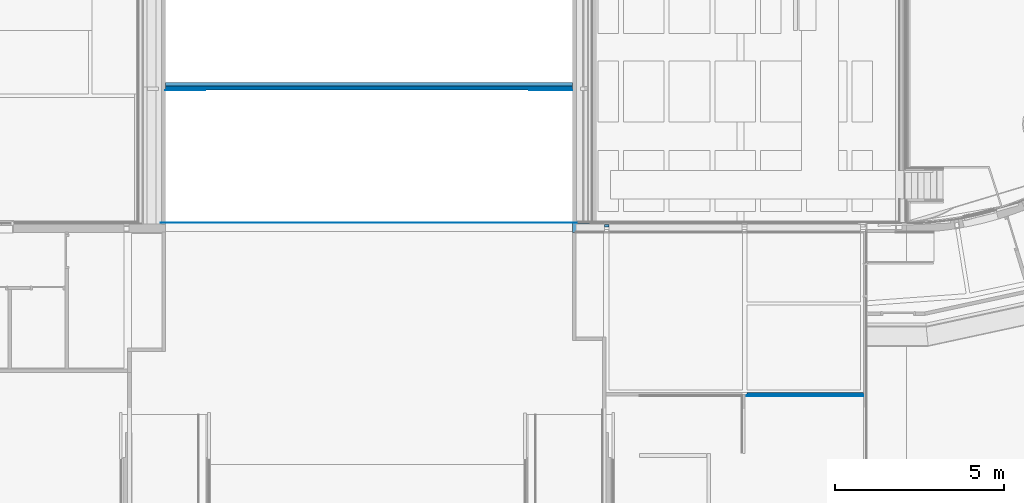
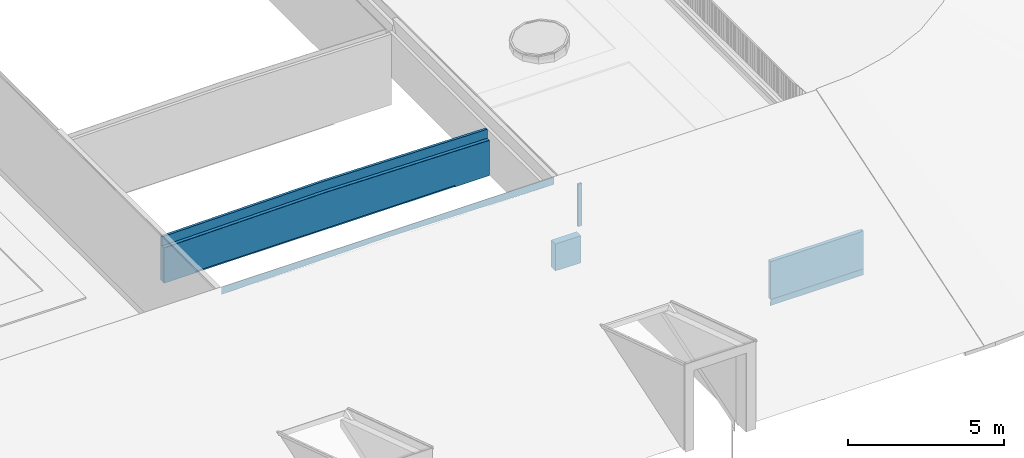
# One storey, part 25 of 66: 8 walls, 5 openings.
"""IFC2X3 building model written with IfcOpenShell, lengths in millimetres."""

from ifc_helpers import new_model, entity, si_unit, converted_unit, derived_unit, direction, frame, frame_2d, origin, place, context, subcontext, project, spatial, polyline, rectangle, outline, extrude, clip, halfspace, bounded_halfspace, material, layer, layer_set, layer_usage, type_object, element, save


model = new_model("IFC2X3")

# Units and contexts
model_context = context("Model", 3, precision=0.01, world=origin(), true_north=direction((6.12303176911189e-17, 1.0)))
body_context = subcontext(model_context, "Body", "Model", "MODEL_VIEW")
ifc_project = project(units=[si_unit("LENGTHUNIT", "METRE", prefix="MILLI"), si_unit("AREAUNIT", "SQUARE_METRE"), si_unit("VOLUMEUNIT", "CUBIC_METRE"), converted_unit("PLANEANGLEUNIT", "DEGREE", entity("IfcRatioMeasure", 0.0174532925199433), si_unit("PLANEANGLEUNIT", "RADIAN"), dimensions=[0, 0, 0, 0, 0, 0, 0]), si_unit("MASSUNIT", "GRAM", prefix="KILO"), derived_unit("MASSDENSITYUNIT", [(si_unit("MASSUNIT", "GRAM", prefix="KILO"), 1), (si_unit("LENGTHUNIT", "METRE"), -3)]), derived_unit("MOMENTOFINERTIAUNIT", [(si_unit("LENGTHUNIT", "METRE"), 4)]), si_unit("TIMEUNIT", "SECOND"), si_unit("FREQUENCYUNIT", "HERTZ"), si_unit("THERMODYNAMICTEMPERATUREUNIT", "DEGREE_CELSIUS"), derived_unit("THERMALTRANSMITTANCEUNIT", [(si_unit("MASSUNIT", "GRAM", prefix="KILO"), 1), (si_unit("THERMODYNAMICTEMPERATUREUNIT", "KELVIN"), -1), (si_unit("TIMEUNIT", "SECOND"), -3)]), derived_unit("VOLUMETRICFLOWRATEUNIT", [(si_unit("LENGTHUNIT", "METRE"), 3), (si_unit("TIMEUNIT", "SECOND"), -1)]), si_unit("ELECTRICCURRENTUNIT", "AMPERE"), si_unit("ELECTRICVOLTAGEUNIT", "VOLT"), si_unit("POWERUNIT", "WATT"), si_unit("FORCEUNIT", "NEWTON", prefix="KILO"), si_unit("ILLUMINANCEUNIT", "LUX"), si_unit("LUMINOUSFLUXUNIT", "LUMEN"), si_unit("LUMINOUSINTENSITYUNIT", "CANDELA"), derived_unit("USERDEFINED", [(si_unit("MASSUNIT", "GRAM", prefix="KILO"), -1), (si_unit("LENGTHUNIT", "METRE"), -2), (si_unit("TIMEUNIT", "SECOND"), 3), (si_unit("LUMINOUSFLUXUNIT", "LUMEN"), 1)]), derived_unit("LINEARVELOCITYUNIT", [(si_unit("LENGTHUNIT", "METRE"), 1), (si_unit("TIMEUNIT", "SECOND"), -1)]), si_unit("PRESSUREUNIT", "PASCAL"), derived_unit("USERDEFINED", [(si_unit("LENGTHUNIT", "METRE"), -2), (si_unit("MASSUNIT", "GRAM", prefix="KILO"), 1), (si_unit("TIMEUNIT", "SECOND"), -2)]), derived_unit("LINEARFORCEUNIT", [(si_unit("MASSUNIT", "GRAM", prefix="KILO"), 1), (si_unit("LENGTHUNIT", "METRE"), 1), (si_unit("TIMEUNIT", "SECOND"), -2), (si_unit("LENGTHUNIT", "METRE"), -1)]), derived_unit("PLANARFORCEUNIT", [(si_unit("MASSUNIT", "GRAM", prefix="KILO"), 1), (si_unit("LENGTHUNIT", "METRE"), 1), (si_unit("TIMEUNIT", "SECOND"), -2), (si_unit("LENGTHUNIT", "METRE"), -2)])], contexts=[model_context])

# Site, building, storey
site_placement = place(None, origin())
site = spatial("IfcSite", under=ifc_project, at=site_placement, Name="Default", CompositionType="ELEMENT")
building_placement = place(site_placement, origin())
building = spatial("IfcBuilding", under=site, at=building_placement, Name="-", CompositionType="ELEMENT")
storey_placement = place(building_placement, frame((0.0, 0.0, 3070.0)))
storey = spatial("IfcBuildingStorey", under=building, at=storey_placement, Name="01 eerste verdieping", CompositionType="ELEMENT", Elevation=3070.00000000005)

# Wall, opening
ifc_material_1 = material(Name="NLRS_f7_gipsplaat_gen")
ifc_layer_1 = layer(ifc_material_1, 12.5)
ifc_material_2 = material(Name="NLRS_m1_isolatie")
ifc_layer_2 = layer(ifc_material_2, 75.0)
ifc_layer_3 = layer(ifc_material_1, 12.5)
ifc_layer_set_1 = layer_set([ifc_layer_1, ifc_layer_2, ifc_layer_3], Name="Basic Wall:NLRS_21_WA_Metalstud 100mm")
ifc_layer_usage_1 = layer_usage(ifc_layer_set_1, "AXIS2", "NEGATIVE", 50.0)
wall_type_1 = type_object("IfcWallType", Name="Basic Wall:NLRS_21_WA_Metalstud 100mm", PredefinedType="STANDARD", material=ifc_layer_set_1)
wall_1_placement = place(storey_placement, frame((45943.9585299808, 5370.76111630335, 100.0)))
wall_1 = element("IfcWallStandardCase", 1, at=wall_1_placement, inside=storey, type_object=wall_type_1, material=ifc_layer_usage_1, Name="Basic Wall:NLRS_21_WA_Metalstud 100mm", ObjectType="Basic Wall:NLRS_21_WA_Metalstud 100mm", context=body_context, shape_type="Clipping", body=[
    clip(clip(extrude(rectangle(XDim=3437.66186015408, YDim=99.9999999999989, at=frame_2d((1718.83093007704, -1.06581410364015e-14), x_axis=(-1.0, 0.0))), origin(), (0.0, 0.0, 1.0), 1508.41772504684), bounded_halfspace(frame((3352.47986444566, -50.0, 1475.92575542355), z_axis=(0.0, -0.309016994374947, 0.951056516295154), x_axis=(1.0, 0.0, 0.0)), False, frame((3352.47986444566, -50.0, 1475.92575542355), z_axis=(0.0, -0.309016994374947, 0.951056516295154), x_axis=(1.0, 0.0, 0.0)), polyline([(0.0, 0.0), (0.0, 65.9729998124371), (-18.8180042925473, 65.9729998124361), (-18.8180042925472, 105.146222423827), (-3352.47986444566, 105.146222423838), (-3352.47986444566, 0.0), (0.0, 0.0)]))), bounded_halfspace(frame((3352.47986444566, 12.7440513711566, 1496.31253353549), z_axis=(-1.0, 0.0, 0.0), x_axis=(0.0, 0.951056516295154, 0.309016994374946)), False, frame((3352.47986444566, 12.7440513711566, 1496.31253353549), z_axis=(-1.0, 0.0, 0.0), x_axis=(0.0, 0.951056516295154, 0.309016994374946)), polyline([(0.0, 0.0), (-65.972999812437, 0.0), (-59.6731389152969, -19.3889781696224), (0.0, 0.0)]))),
])
opening_1_placement = place(wall_1_placement, origin())
element("IfcOpeningElement", 2, at=opening_1_placement, cuts=wall_1, Name="Basic Wall:NLRS_21_WA_Metalstud 100mm", ObjectType="Opening", context=body_context, shape_type="SweptSolid", body=[
    extrude(rectangle(XDim=99.9999999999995, YDim=154.000000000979, at=frame_2d((-2.70006239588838e-13, -4.33431068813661e-12), x_axis=(1.0, 0.0))), frame((3410.6618601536, 50.0, 1546.31253353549), z_axis=(0.0, -1.0, 0.0), x_axis=(0.0, 0.0, 1.0)), (0.0, 0.0, 1.0), 100.0),
])

# Walls
ifc_material_3 = material(Name="NLRS_i4_hout_multiplex")
ifc_layer_4 = layer(ifc_material_3, 10.0)
ifc_layer_5 = layer(ifc_material_2, 235.0)
ifc_layer_6 = layer(ifc_material_3, 10.0)
ifc_layer_7 = layer(ifc_material_1, 12.5)
ifc_layer_set_2 = layer_set([ifc_layer_4, ifc_layer_5, ifc_layer_6, ifc_layer_7], Name="Basic Wall:NLRS_21_WA_HSB-wand_268mm")
ifc_layer_usage_2 = layer_usage(ifc_layer_set_2, "AXIS2", "POSITIVE", -133.75)
wall_type_2 = type_object("IfcWallType", Name="Basic Wall:NLRS_21_WA_HSB-wand_268mm", PredefinedType="STANDARD", material=ifc_layer_set_2)
wall_2_placement = place(storey_placement, frame((40795.5668104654, 10280.874095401, 82.0)))
element("IfcWallStandardCase", 3, at=wall_2_placement, inside=storey, type_object=wall_type_2, material=ifc_layer_usage_2, Name="Basic Wall:NLRS_21_WA_HSB-wand_268mm", ObjectType="Basic Wall:NLRS_21_WA_HSB-wand_268mm", context=body_context, shape_type="Clipping", body=[
    clip(clip(extrude(rectangle(XDim=941.037110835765, YDim=267.5, at=frame_2d((470.518555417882, 3.5527136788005e-13), x_axis=(-1.0, 0.0))), origin(), (0.0, 0.0, 1.0), 1060.0), bounded_halfspace(frame((120.499999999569, -133.75, 18.0), z_axis=(1.0, 0.0, 0.0), x_axis=(0.0, 1.0, 0.0)), True, frame((120.499999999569, -133.75, 18.0), z_axis=(1.0, 0.0, 0.0), x_axis=(0.0, 1.0, 0.0)), polyline([(0.0, 0.0), (0.0, -18.0), (267.5, -18.0), (267.500000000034, 0.0), (0.0, 0.0)]))), bounded_halfspace(frame((120.499999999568, 133.750000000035, 18.0)), True, frame((120.499999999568, 133.750000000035, 18.0)), polyline([(0.0, 0.0), (-120.499999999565, 0.0), (-120.499999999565, -26.5028730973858), (-120.499999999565, -267.500000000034), (-23.0, -267.500000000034), (0.0, -267.500000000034), (0.0, 0.0)]))),
])
ifc_layer_8 = layer(ifc_material_3, 10.0)
ifc_material_4 = material(Name="AL_31_Naaldhout (vuren)")
ifc_layer_9 = layer(ifc_material_4, 184.0)
ifc_layer_10 = layer(ifc_material_3, 10.0)
ifc_material_5 = material(Name="NLRS_f7_gipsplaten")
ifc_layer_11 = layer(ifc_material_5, 12.5)
ifc_layer_set_3 = layer_set([ifc_layer_8, ifc_layer_9, ifc_layer_10, ifc_layer_11], Name="Basic Wall:NLRS_21_WA_HSB-wand_217mm ongeisoleerd")
ifc_layer_usage_3 = layer_usage(ifc_layer_set_3, "AXIS2", "POSITIVE", -108.25)
wall_type_3 = type_object("IfcWallType", Name="Basic Wall:NLRS_21_WA_HSB-wand_217mm ongeisoleerd", PredefinedType="STANDARD", material=ifc_layer_set_3)
wall_3_placement = place(storey_placement, frame((28780.6948343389, 14461.5702504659, 1278.0)))
element("IfcWallStandardCase", 4, at=wall_3_placement, inside=storey, type_object=wall_type_3, material=ifc_layer_usage_3, Name="Basic Wall:NLRS_21_WA_HSB-wand_217mm ongeisoleerd", ObjectType="Basic Wall:NLRS_21_WA_HSB-wand_217mm ongeisoleerd", context=body_context, shape_type="Clipping", body=[
    clip(clip(extrude(rectangle(XDim=12012.3719761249, YDim=216.499999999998, at=frame_2d((6006.18598806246, -1.77635683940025e-13), x_axis=(-1.0, 0.0))), origin(), (0.0, 0.0, 1.0), 1458.01711543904), halfspace(frame((0.0, -108.250000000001, 1374.63407559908), z_axis=(-0.0138697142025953, 0.0, 0.999903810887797), x_axis=(0.0, 1.0, 0.0)), False)), halfspace(frame((6011.30045518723, -108.250000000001, 1458.01711543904), z_axis=(0.0138961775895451, 0.0, 0.999903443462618), x_axis=(0.0, 1.0, 0.0)), False)),
])

# Wall, opening
ifc_layer_12 = layer(ifc_material_4, 70.0)
ifc_layer_13 = layer(ifc_material_3, 10.0)
ifc_layer_14 = layer(ifc_material_5, 12.5)
ifc_layer_set_4 = layer_set([ifc_layer_12, ifc_layer_13, ifc_layer_14], Name="Basic Wall:NLRS_21_WA_HSB werk 90mm")
ifc_layer_usage_4 = layer_usage(ifc_layer_set_4, "AXIS2", "POSITIVE", -46.25)
wall_type_4 = type_object("IfcWallType", Name="Basic Wall:NLRS_21_WA_HSB werk 90mm", PredefinedType="STANDARD", material=ifc_layer_set_4)
wall_4_placement = place(storey_placement, frame((28780.6948343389, 14523.5702504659, 2652.63407559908)))
wall_4 = element("IfcWallStandardCase", 5, at=wall_4_placement, inside=storey, type_object=wall_type_4, material=ifc_layer_usage_4, Name="Basic Wall:NLRS_21_WA_HSB werk 90mm", ObjectType="Basic Wall:NLRS_21_WA_HSB werk 90mm", context=body_context, shape_type="Clipping", body=[
    clip(clip(clip(extrude(rectangle(XDim=12012.3719761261, YDim=92.5000000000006, at=frame_2d((6006.18598806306, 0.0), x_axis=(-1.0, 0.0))), origin(), (0.0, 0.0, 1.0), 435.365924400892), halfspace(frame((6011.30105950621, -46.2500000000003, 435.365924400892), z_axis=(0.0138961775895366, 0.0, 0.999903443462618), x_axis=(0.0, 1.0, 0.0)), False)), halfspace(frame((0.0, -46.2500000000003, 351.982876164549), z_axis=(-0.0138697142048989, 0.0, 0.999903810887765), x_axis=(0.0, 1.0, 0.0)), False)), halfspace(frame((12012.3719761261, 0.0, 0.122006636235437), z_axis=(1.01567480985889e-05, 0.0, -1.0), x_axis=(0.0, -1.0, 0.0)), False)),
])
opening_2_placement = place(wall_4_placement, origin())
element("IfcOpeningElement", 6, at=opening_2_placement, cuts=wall_4, Name="Basic Wall:NLRS_21_WA_HSB werk 90mm", ObjectType="Opening", context=body_context, shape_type="SweptSolid", body=[
    extrude(outline(polyline([(-6000.95348719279, -55.6826830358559), (-9.30343327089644, -55.6826830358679), (6010.25692046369, 111.365366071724), (-6000.95348719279, -55.6826830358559)])), frame((6011.22414377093, 46.2500000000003, 27.8350154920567), z_axis=(0.0, -1.0, 0.0), x_axis=(-0.999903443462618, 0.0, 0.0138961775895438)), (0.0, 0.0, 1.0), 92.5),
])

# Wall
ifc_material_6 = material(Name="NLRS_n7_isolatie PIR_gen")
ifc_layer_15 = layer(ifc_material_6, 70.0)
ifc_layer_set_5 = layer_set([ifc_layer_15], Name="Basic Wall:NLRS_22_WA_LB_isolatie PIR 70mm")
ifc_layer_usage_5 = layer_usage(ifc_layer_set_5, "AXIS2", "NEGATIVE", 35.0)
wall_type_5 = type_object("IfcWallType", Name="Basic Wall:NLRS_22_WA_LB_isolatie PIR 70mm", PredefinedType="STANDARD", material=ifc_layer_set_5)
wall_5_placement = place(storey_placement, frame((41737.2859170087, 10347.532207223, 1390.0)))
element("IfcWallStandardCase", 7, at=wall_5_placement, inside=storey, type_object=wall_type_5, material=ifc_layer_usage_5, Name="Basic Wall:NLRS_22_WA_LB_isolatie PIR 70mm", ObjectType="Basic Wall:NLRS_22_WA_LB_isolatie PIR 70mm", context=body_context, shape_type="SweptSolid", body=[
    extrude(rectangle(XDim=140.000000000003, YDim=70.0000000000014, at=frame_2d((70.0000000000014, 2.59348098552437e-13), x_axis=(-1.0, 0.0))), origin(), (0.0, 0.0, 1.0), 1655.00000000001),
])

# Wall, opening
ifc_material_7 = material(Name="n2_bitumen_dak bedekking")
ifc_layer_16 = layer(ifc_material_7, 6.0)
ifc_layer_set_6 = layer_set([ifc_layer_16], Name="Basic Wall:47.11_2 laagse APP dakbedekking")
ifc_layer_usage_6 = layer_usage(ifc_layer_set_6, "AXIS2", "NEGATIVE", 3.0)
wall_type_6 = type_object("IfcWallType", Name="Basic Wall:47.11_2 laagse APP dakbedekking", PredefinedType="STANDARD", material=ifc_layer_set_6)
wall_6_placement = place(storey_placement, frame((40917.0, 10434.1240954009, 3259.39125601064), z_axis=(0.0, 0.0, 1.0), x_axis=(-1.0, 0.0, 0.0)))
wall_6 = element("IfcWallStandardCase", 8, at=wall_6_placement, inside=storey, type_object=wall_type_6, material=ifc_layer_usage_6, Name="Basic Wall:47.11_2 laagse APP dakbedekking", ObjectType="Basic Wall:47.11_2 laagse APP dakbedekking", context=body_context, shape_type="Clipping", body=[
    clip(extrude(rectangle(XDim=12279.7290553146, YDim=5.99999999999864, at=frame_2d((6139.86452765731, 6.12176975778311e-13), x_axis=(-1.0, 0.0))), origin(), (0.0, 0.0, 1.0), 289.98319421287), halfspace(frame((12279.7290553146, 0.0, 0.0), z_axis=(-1.09677921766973e-05, 0.0, -1.0), x_axis=(0.0, -1.0, 0.0)), False)),
])
opening_3_placement = place(wall_6_placement, origin())
element("IfcOpeningElement", 9, at=opening_3_placement, cuts=wall_6, Name="Basic Wall:47.11_2 laagse APP dakbedekking", ObjectType="Opening", context=body_context, shape_type="SweptSolid", body=[
    extrude(outline(polyline([(-6141.28905916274, -56.6612286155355), (4.0256288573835, -56.6612286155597), (6137.26343030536, 113.322457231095), (-6141.28905916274, -56.6612286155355)])), frame((6138.24438715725, 3.0, 28.4231210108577), z_axis=(0.0, -1.0, 0.0), x_axis=(-0.999904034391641, 0.0, 0.0138535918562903)), (0.0, 0.0, 1.0), 6.00000000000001),
])

ifc_layer_17 = layer(ifc_material_1, 12.5)
ifc_layer_18 = layer(ifc_material_3, 10.0)
ifc_layer_set_7 = layer_set([ifc_layer_17, ifc_layer_18], Name="Basic Wall:NLRS_41_WA_Bekleding kolommen")
ifc_layer_usage_7 = layer_usage(ifc_layer_set_7, "AXIS2", "NEGATIVE", 11.25)
wall_type_7 = type_object("IfcWallType", Name="Basic Wall:NLRS_41_WA_Bekleding kolommen", PredefinedType="STANDARD", material=ifc_layer_set_7)
wall_7_placement = place(storey_placement, frame((49381.6203901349, 5332.01111630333, -139.0), z_axis=(0.0, 0.0, 1.0), x_axis=(-1.0, 0.0, 0.0)))
wall_7 = element("IfcWallStandardCase", 10, at=wall_7_placement, inside=storey, type_object=wall_type_7, material=ifc_layer_usage_7, Name="Basic Wall:NLRS_41_WA_Bekleding kolommen", ObjectType="Basic Wall:NLRS_41_WA_Bekleding kolommen", context=body_context, shape_type="SweptSolid", body=[
    extrude(rectangle(XDim=3437.66186015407, YDim=22.4999999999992, at=frame_2d((1718.83093007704, -6.92779167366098e-14), x_axis=(-1.0, 0.0))), origin(), (0.0, 0.0, 1.0), 239.0),
])
opening_4_placement = place(wall_7_placement, origin())
element("IfcOpeningElement", 11, at=opening_4_placement, cuts=wall_7, Name="Basic Wall:NLRS_41_WA_Bekleding kolommen", ObjectType="Opening", context=body_context, shape_type="SweptSolid", body=[
    extrude(rectangle(XDim=99.9999999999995, YDim=26.3381398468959, at=frame_2d((2.70006239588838e-13, -4.33164615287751e-12), x_axis=(1.0, 0.0))), frame((3424.49279023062, 11.2499999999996, 189.0), z_axis=(0.0, -1.0, 0.0), x_axis=(0.0, 0.0, 1.0)), (0.0, 0.0, 1.0), 22.5),
])

ifc_layer_19 = layer(ifc_material_1, 12.5)
ifc_layer_set_8 = layer_set([ifc_layer_19], Name="Basic Wall:NLRS_21_WA_Gipsplaat 12.5mm")
ifc_layer_usage_8 = layer_usage(ifc_layer_set_8, "AXIS2", "NEGATIVE", 6.25)
wall_type_8 = type_object("IfcWallType", Name="Basic Wall:NLRS_21_WA_Gipsplaat 12.5mm", PredefinedType="STANDARD", material=ifc_layer_set_8)
wall_8_placement = place(storey_placement, frame((28780.6948343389, 14347.0702504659, 1278.0)))
wall_8 = element("IfcWallStandardCase", 12, at=wall_8_placement, inside=storey, type_object=wall_type_8, material=ifc_layer_usage_8, Name="Basic Wall:NLRS_21_WA_Gipsplaat 12.5mm", ObjectType="Basic Wall:NLRS_21_WA_Gipsplaat 12.5mm", context=body_context, shape_type="Clipping", body=[
    clip(clip(extrude(rectangle(XDim=12012.3719761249, YDim=12.5000000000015, at=frame_2d((6006.18598806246, 7.15427717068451e-13), x_axis=(-1.0, 0.0))), origin(), (0.0, 0.0, 1.0), 1457.96891801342), halfspace(frame((6000.56259705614, -6.24999999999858, 1457.96891801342), z_axis=(0.0138961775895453, 0.0, 0.999903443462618), x_axis=(0.0, 1.0, 0.0)), False)), halfspace(frame((0.0, -6.24999999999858, 1376.6297045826), z_axis=(-0.0135540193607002, 0.0, 0.999908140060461), x_axis=(0.0, 1.0, 0.0)), False)),
])
opening_5_placement = place(wall_8_placement, origin())
element("IfcOpeningElement", 13, at=opening_5_placement, cuts=wall_8, Name="Basic Wall:NLRS_21_WA_Gipsplaat 12.5mm", ObjectType="Opening", context=body_context, shape_type="SweptSolid", body=[
    extrude(rectangle(XDim=59.999999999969, YDim=9560.7819212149, at=frame_2d((1.81898940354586e-12, 7.84972087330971e-12), x_axis=(0.0, 1.0))), frame((5950.19374173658, 6.25000000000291, 30.0), z_axis=(0.0, -1.0, 0.0), x_axis=(1.0, 0.0, 0.0)), (0.0, 0.0, 1.0), 12.5),
])

save(model, "model.ifc")
